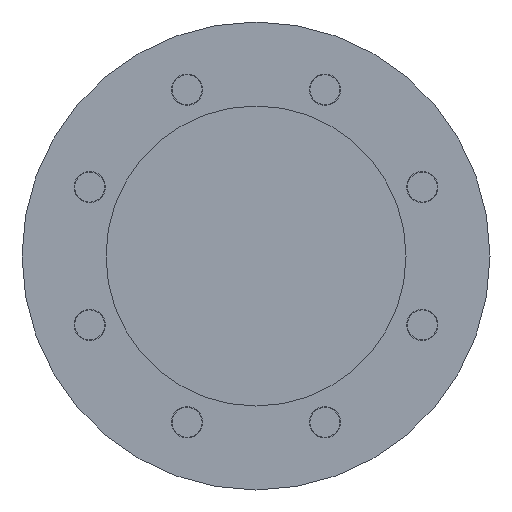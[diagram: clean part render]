
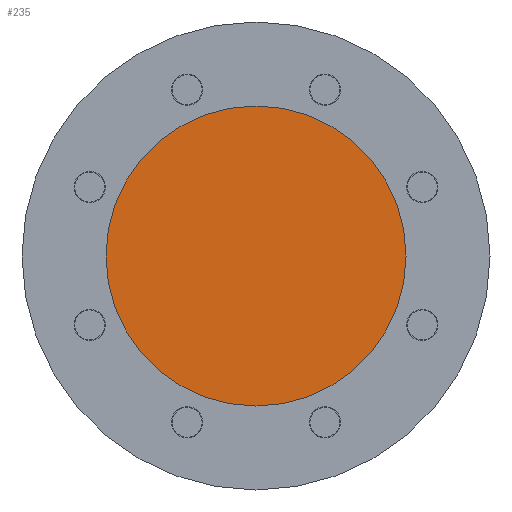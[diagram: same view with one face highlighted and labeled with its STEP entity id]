
A CAD part, front view. The second image highlights one B-rep face of the part: STEP entity #235.
In plain terms, the highlighted planar face has unit normal (0, -1, 0).
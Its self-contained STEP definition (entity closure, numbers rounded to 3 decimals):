
#235 = ADVANCED_FACE( '', ( #586 ), #587, .T. );
#586 = FACE_OUTER_BOUND( '', #959, .T. );
#587 = PLANE( '', #960 );
#959 = EDGE_LOOP( '', ( #2137, #2138 ) );
#960 = AXIS2_PLACEMENT_3D( '', #2139, #2140, #2141 );
#2137 = ORIENTED_EDGE( '', *, *, #2207, .F. );
#2138 = ORIENTED_EDGE( '', *, *, #2558, .F. );
#2139 = CARTESIAN_POINT( '', ( 12.5, -30., 0. ) );
#2140 = DIRECTION( '', ( 0., -1., 0. ) );
#2141 = DIRECTION( '', ( -1., 0., 0. ) );
#2207 = EDGE_CURVE( '', #2570, #2573, #2574, .T. );
#2558 = EDGE_CURVE( '', #2573, #2570, #3158, .T. );
#2570 = VERTEX_POINT( '', #3172 );
#2573 = VERTEX_POINT( '', #3176 );
#2574 = CIRCLE( '', #3177, 25. );
#3158 = CIRCLE( '', #3974, 25. );
#3172 = CARTESIAN_POINT( '', ( 25., -30., 0. ) );
#3176 = CARTESIAN_POINT( '', ( -25., -30., 0. ) );
#3177 = AXIS2_PLACEMENT_3D( '', #3987, #3988, #3989 );
#3974 = AXIS2_PLACEMENT_3D( '', #4614, #4615, #4616 );
#3987 = CARTESIAN_POINT( '', ( 0., -30., 0. ) );
#3988 = DIRECTION( '', ( 0., 1., 0. ) );
#3989 = DIRECTION( '', ( 1., 0., 0. ) );
#4614 = CARTESIAN_POINT( '', ( 0., -30., 0. ) );
#4615 = DIRECTION( '', ( 0., 1., 0. ) );
#4616 = DIRECTION( '', ( 1., 0., 0. ) );
